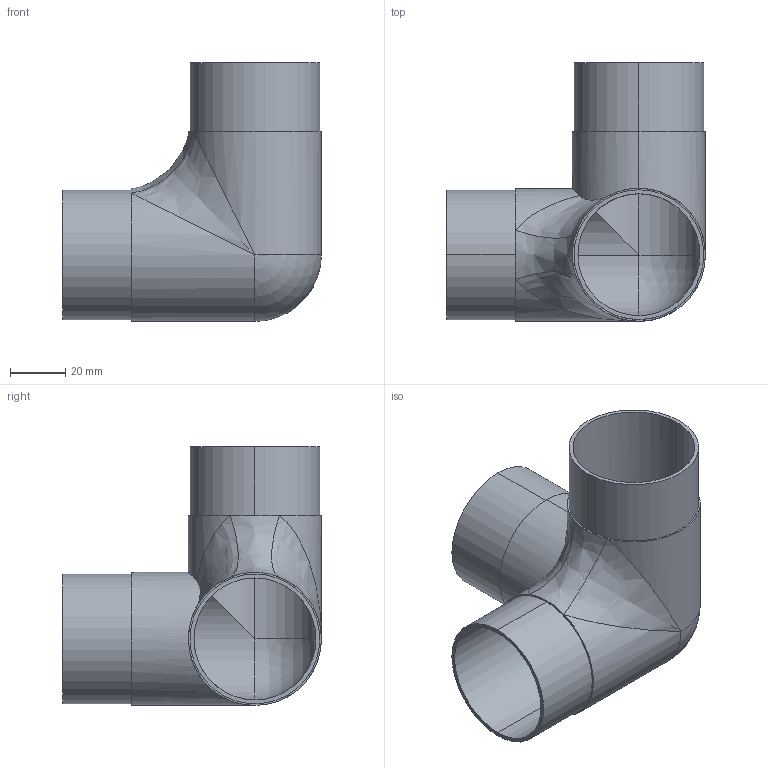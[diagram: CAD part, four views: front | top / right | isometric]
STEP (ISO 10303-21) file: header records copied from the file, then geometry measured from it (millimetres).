
FILE_DESCRIPTION (( 'STEP AP203' ), '1' );
FILE_NAME ('3D_GR1114_48.3x2_188701760.STEP', '2024-10-08T10:45:35', ( '' ), ( '' ), 'SwSTEP 2.0', 'SolidWorks 2024', '' );
FILE_SCHEMA (( 'CONFIG_CONTROL_DESIGN' ));
Length unit declared in the file: millimetre
Products named in the file (1): 3D_GR1114_48.3x2_188701760
Bounding box: 94 x 94 x 94 mm (x, y, z)
Volume: 44680.5 mm3; surface area: 52003.8 mm2
Topology: 1 solids, 1 shells, 34 faces, 78 edges, 44 vertices
Faces by surface type: cylinder 18, plane 8, bspline 6, sphere 2
Entity records: 2113 total; most frequent: CARTESIAN_POINT 1324, DIRECTION 154, ORIENTED_EDGE 148, EDGE_CURVE 74, AXIS2_PLACEMENT_3D 69, VERTEX_POINT 44, EDGE_LOOP 40, CIRCLE 40
